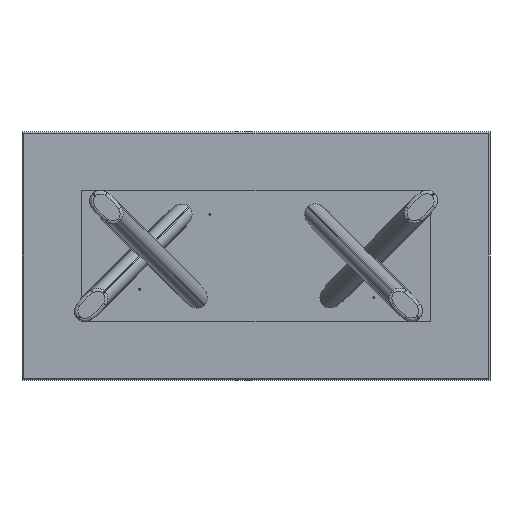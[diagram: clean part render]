
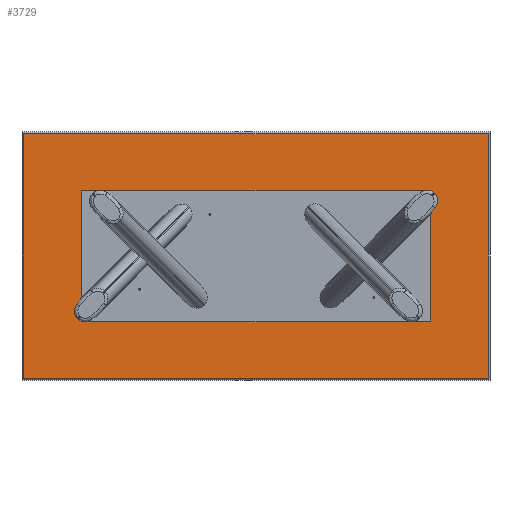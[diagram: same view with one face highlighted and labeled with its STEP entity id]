
A CAD part, front view. The second image highlights one B-rep face of the part: STEP entity #3729.
In plain terms, the highlighted planar face has unit normal (0, -1, 0).
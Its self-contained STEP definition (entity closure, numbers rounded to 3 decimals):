
#41 = DIRECTION ( 'NONE',  ( 0., 0., -1. ) ) ;
#176 = VERTEX_POINT ( 'NONE', #3756 ) ;
#194 = CARTESIAN_POINT ( 'NONE',  ( 992., 50., -522. ) ) ;
#326 = EDGE_CURVE ( 'NONE', #2326, #4201, #1257, .T. ) ;
#371 = AXIS2_PLACEMENT_3D ( 'NONE', #3826, #462, #3086 ) ;
#462 = DIRECTION ( 'NONE',  ( 0., -1., 0. ) ) ;
#790 = EDGE_CURVE ( 'NONE', #4201, #176, #963, .T. ) ;
#884 = EDGE_CURVE ( 'NONE', #2924, #2326, #1407, .T. ) ;
#929 = VECTOR ( 'NONE', #3676, 1000. ) ;
#963 = LINE ( 'NONE', #1340, #929 ) ;
#1018 = LINE ( 'NONE', #3354, #2289 ) ;
#1257 = LINE ( 'NONE', #3282, #4394 ) ;
#1340 = CARTESIAN_POINT ( 'NONE',  ( 992., 50., 530. ) ) ;
#1407 = LINE ( 'NONE', #4131, #4397 ) ;
#1842 = ORIENTED_EDGE ( 'NONE', *, *, #4387, .T. ) ;
#2053 = ORIENTED_EDGE ( 'NONE', *, *, #790, .T. ) ;
#2061 = ORIENTED_EDGE ( 'NONE', *, *, #326, .T. ) ;
#2255 = EDGE_LOOP ( 'NONE', ( #4041, #2061, #2053, #1842 ) ) ;
#2289 = VECTOR ( 'NONE', #3399, 1000. ) ;
#2326 = VERTEX_POINT ( 'NONE', #2762 ) ;
#2453 = FACE_OUTER_BOUND ( 'NONE', #2255, .T. ) ;
#2703 = CARTESIAN_POINT ( 'NONE',  ( -992., 50., 522. ) ) ;
#2762 = CARTESIAN_POINT ( 'NONE',  ( -992., 50., -522. ) ) ;
#2924 = VERTEX_POINT ( 'NONE', #2703 ) ;
#3086 = DIRECTION ( 'NONE',  ( 0., 0., -1. ) ) ;
#3171 = PLANE ( 'NONE',  #371 ) ;
#3282 = CARTESIAN_POINT ( 'NONE',  ( 1000., 50., -522. ) ) ;
#3354 = CARTESIAN_POINT ( 'NONE',  ( -1000., 50., 522. ) ) ;
#3399 = DIRECTION ( 'NONE',  ( -1., 0., 0. ) ) ;
#3557 = DIRECTION ( 'NONE',  ( 1., 0., 0. ) ) ;
#3676 = DIRECTION ( 'NONE',  ( 0., 0., 1. ) ) ;
#3729 = ADVANCED_FACE ( 'NONE', ( #2453 ), #3171, .T. ) ;
#3756 = CARTESIAN_POINT ( 'NONE',  ( 992., 50., 522. ) ) ;
#3826 = CARTESIAN_POINT ( 'NONE',  ( 0., 50., 0. ) ) ;
#4041 = ORIENTED_EDGE ( 'NONE', *, *, #884, .T. ) ;
#4131 = CARTESIAN_POINT ( 'NONE',  ( -992., 50., -530. ) ) ;
#4201 = VERTEX_POINT ( 'NONE', #194 ) ;
#4387 = EDGE_CURVE ( 'NONE', #176, #2924, #1018, .T. ) ;
#4394 = VECTOR ( 'NONE', #3557, 1000. ) ;
#4397 = VECTOR ( 'NONE', #41, 1000. ) ;
